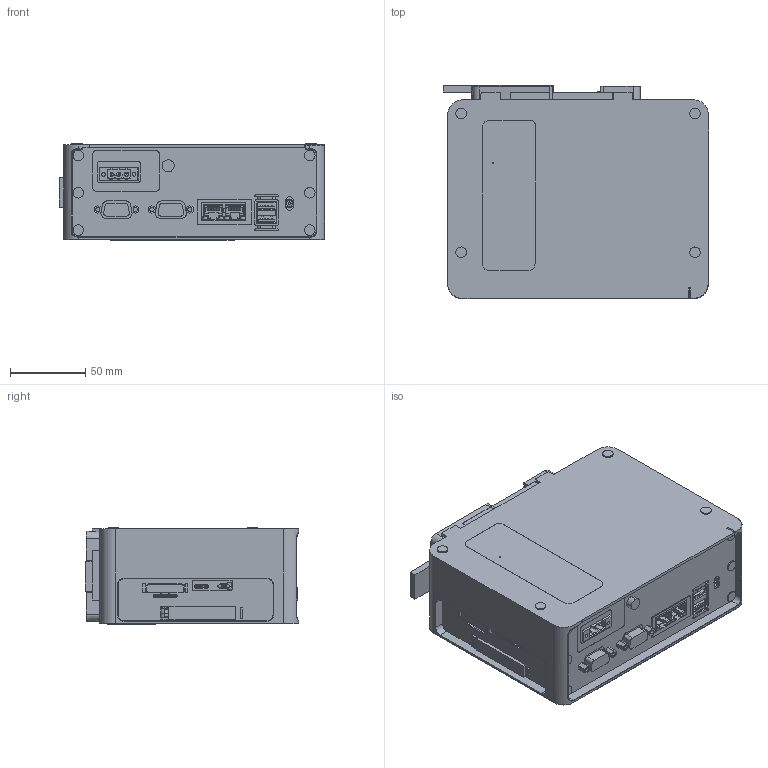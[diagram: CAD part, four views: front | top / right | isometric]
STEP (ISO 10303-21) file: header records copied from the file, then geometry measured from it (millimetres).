
FILE_DESCRIPTION (( 'STEP AP203' ), '1' );
FILE_NAME ('PFXGP6B40DI1.STEP', '2024-06-04T12:39:59', ( '' ), ( '' ), 'SwSTEP 2.0', 'SolidWorks 2021', '' );
FILE_SCHEMA (( 'CONFIG_CONTROL_DESIGN' ));
Products named in the file (1): PFXGP6B40DI1
Bounding box: 175.73 x 141.4 x 64.08 mm (x, y, z)
Volume: 1407174.9 mm3; surface area: 103990 mm2
Topology: 3 solids, 36 shells, 3133 faces, 8903 edges, 5861 vertices
Faces by surface type: plane 2186, cylinder 705, bspline 128, cone 110, torus 4
Entity records: 108896 total; most frequent: CARTESIAN_POINT 28619, ORIENTED_EDGE 17786, DIRECTION 15156, EDGE_CURVE 8893, LINE 6652, VECTOR 6652, VERTEX_POINT 5861, AXIS2_PLACEMENT_3D 4252
